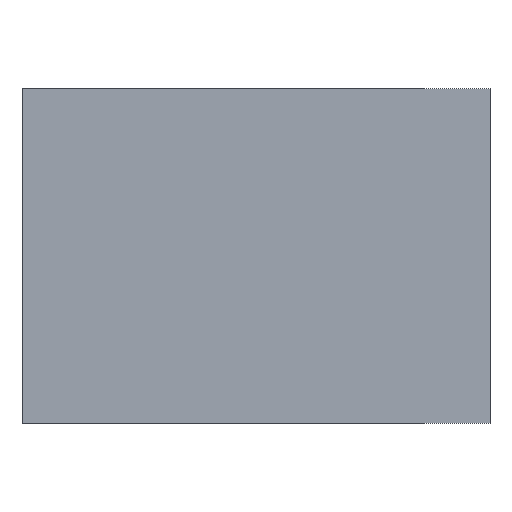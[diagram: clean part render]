
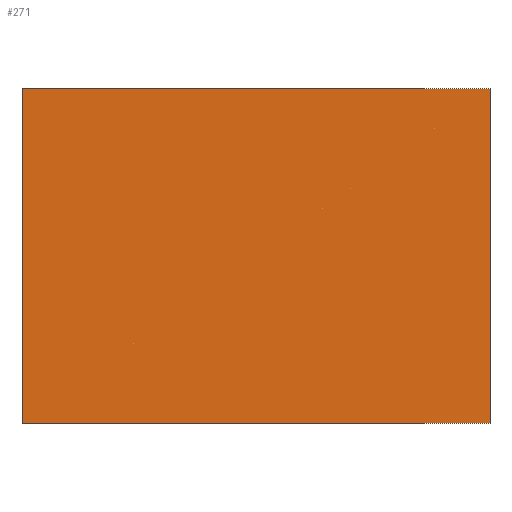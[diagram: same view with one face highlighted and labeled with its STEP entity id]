
A CAD part, left-side view. The second image highlights one B-rep face of the part: STEP entity #271.
In plain terms, the highlighted planar face has unit normal (-1, 0, 0).
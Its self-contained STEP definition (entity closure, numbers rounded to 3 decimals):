
#5 = EDGE_CURVE ( 'NONE', #286, #98, #133, .T. ) ;
#13 = VECTOR ( 'NONE', #165, 1000. ) ;
#16 = CARTESIAN_POINT ( 'NONE',  ( 0., 0., 0. ) ) ;
#24 = DIRECTION ( 'NONE',  ( 0., 0., -1. ) ) ;
#29 = EDGE_CURVE ( 'NONE', #80, #214, #107, .T. ) ;
#80 = VERTEX_POINT ( 'NONE', #106 ) ;
#89 = PLANE ( 'NONE',  #317 ) ;
#98 = VERTEX_POINT ( 'NONE', #168 ) ;
#106 = CARTESIAN_POINT ( 'NONE',  ( 0., 0., 100. ) ) ;
#107 = LINE ( 'NONE', #325, #190 ) ;
#126 = LINE ( 'NONE', #196, #13 ) ;
#132 = EDGE_CURVE ( 'NONE', #286, #80, #126, .T. ) ;
#133 = LINE ( 'NONE', #350, #289 ) ;
#154 = ORIENTED_EDGE ( 'NONE', *, *, #269, .T. ) ;
#158 = EDGE_LOOP ( 'NONE', ( #154, #239, #187, #169 ) ) ;
#165 = DIRECTION ( 'NONE',  ( 0., -1., 0. ) ) ;
#168 = CARTESIAN_POINT ( 'NONE',  ( 0., 140., 0. ) ) ;
#169 = ORIENTED_EDGE ( 'NONE', *, *, #5, .T. ) ;
#173 = CARTESIAN_POINT ( 'NONE',  ( 0., 0., 0. ) ) ;
#178 = FACE_OUTER_BOUND ( 'NONE', #158, .T. ) ;
#187 = ORIENTED_EDGE ( 'NONE', *, *, #132, .F. ) ;
#190 = VECTOR ( 'NONE', #352, 1000. ) ;
#191 = DIRECTION ( 'NONE',  ( 0., 0., -1. ) ) ;
#196 = CARTESIAN_POINT ( 'NONE',  ( 0., 0., 100. ) ) ;
#203 = CARTESIAN_POINT ( 'NONE',  ( 0., 0., 100. ) ) ;
#214 = VERTEX_POINT ( 'NONE', #16 ) ;
#239 = ORIENTED_EDGE ( 'NONE', *, *, #29, .F. ) ;
#257 = DIRECTION ( 'NONE',  ( 1., 0., 0. ) ) ;
#269 = EDGE_CURVE ( 'NONE', #98, #214, #363, .T. ) ;
#271 = ADVANCED_FACE ( 'NONE', ( #178 ), #89, .F. ) ;
#286 = VERTEX_POINT ( 'NONE', #310 ) ;
#289 = VECTOR ( 'NONE', #191, 1000. ) ;
#310 = CARTESIAN_POINT ( 'NONE',  ( 0., 140., 100. ) ) ;
#317 = AXIS2_PLACEMENT_3D ( 'NONE', #203, #257, #24 ) ;
#319 = VECTOR ( 'NONE', #366, 1000. ) ;
#325 = CARTESIAN_POINT ( 'NONE',  ( 0., 0., 100. ) ) ;
#350 = CARTESIAN_POINT ( 'NONE',  ( 0., 140., 100. ) ) ;
#352 = DIRECTION ( 'NONE',  ( 0., 0., -1. ) ) ;
#363 = LINE ( 'NONE', #173, #319 ) ;
#366 = DIRECTION ( 'NONE',  ( 0., -1., 0. ) ) ;
